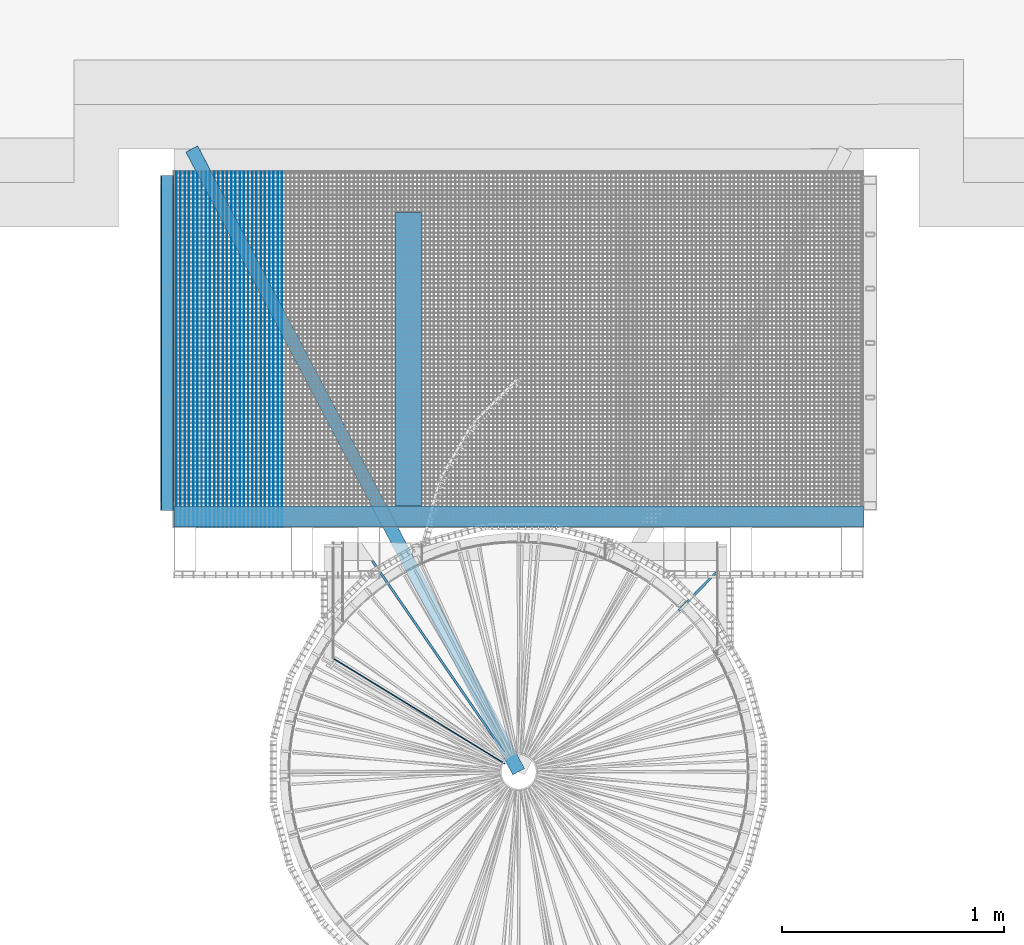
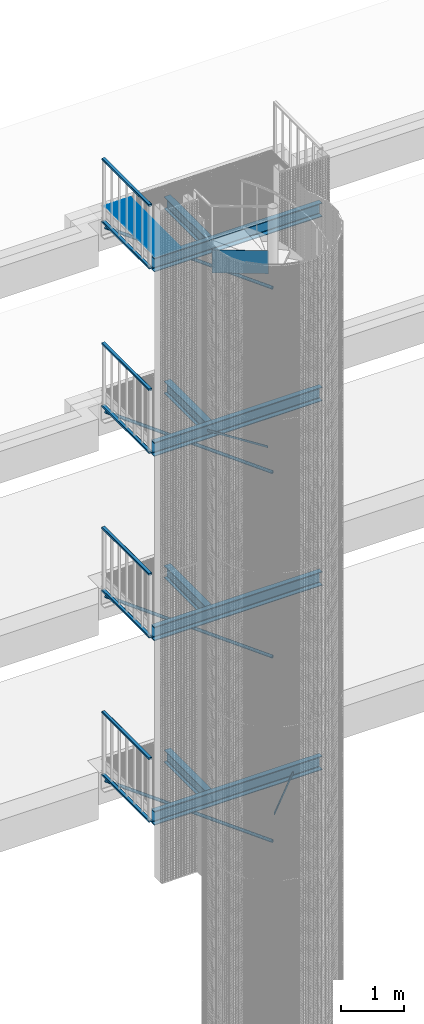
# One storey, part 77 of 1148: 49 beams, 24 elements without a shape of their own.
"""IFC2X3 building model written with IfcOpenShell, lengths in millimetres."""

from ifc_helpers import new_model, si_unit, frame, origin_with_axes, origin_2d_with_axis, place, context, subcontext, project, spatial, rectangle, hollow_rectangle, hollow_circle, i_section, u_section, extrude, material, type_object, element, aggregate, save


model = new_model("IFC2X3")

# Units and contexts
model_context = context("Model", 3, precision=1e-05, world=origin_with_axes())
body_context = subcontext(model_context, "Body", "Model", "MODEL_VIEW")
ifc_project = project(units=[si_unit("LENGTHUNIT", "METRE", prefix="MILLI"), si_unit("AREAUNIT", "SQUARE_METRE"), si_unit("VOLUMEUNIT", "CUBIC_METRE"), si_unit("MASSUNIT", "GRAM", prefix="KILO"), si_unit("TIMEUNIT", "SECOND"), si_unit("PLANEANGLEUNIT", "RADIAN"), si_unit("SOLIDANGLEUNIT", "STERADIAN"), si_unit("THERMODYNAMICTEMPERATUREUNIT", "DEGREE_CELSIUS"), si_unit("LUMINOUSINTENSITYUNIT", "LUMEN")], contexts=[model_context])

# Site, building, storey
site_placement = place(None, origin_with_axes())
site = spatial("IfcSite", under=ifc_project, at=site_placement, Name="Undefined", CompositionType="ELEMENT")
building_placement = place(site_placement, origin_with_axes())
building = spatial("IfcBuilding", under=site, at=building_placement, Name="Undefined", CompositionType="ELEMENT")
storey_placement = place(building_placement, origin_with_axes())
storey = spatial("IfcBuildingStorey", under=building, at=storey_placement, Name="Undefined", CompositionType="ELEMENT", Elevation=0.0)

# Assembly, beams
assembly_1_placement = place(storey_placement, origin_with_axes())
assembly_1 = element("IfcElementAssembly", 1, at=assembly_1_placement, inside=storey, Name="BORDURE", AssemblyPlace="NOTDEFINED", PredefinedType="NOTDEFINED")
ifc_material_1 = material(Name="STEEL/S235JR")
beam_type_1 = type_object("IfcBeamType", Name="PL2*10", PredefinedType="NOTDEFINED")
beam_1_placement = place(assembly_1_placement, frame((-1538.92457524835, 1101.99474406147, 17285.0), z_axis=(0.0, 0.0, 1.0), x_axis=(-4.50599999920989e-06, 0.999999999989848, 0.0)))
beam_1 = element("IfcBeam", 2, at=beam_1_placement, type_object=beam_type_1, material=ifc_material_1, Name="ENTRETOISE", context=body_context, shape_type="SweptSolid", body=[
    extrude(rectangle(XDim=2.0, YDim=10.0, at=origin_2d_with_axis()), frame((1596.0000000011, -1.35186458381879e-18, -7.27595761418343e-12), z_axis=(-1.0, 0.0, 0.0), x_axis=(0.0, -1.0, 0.0)), (0.0, 0.0, 1.0), 1596.0),
])
beam_2_placement = place(assembly_1_placement, frame((-1519.92457524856, 1101.99483757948, 17285.0), z_axis=(0.0, 0.0, 1.0), x_axis=(-4.50599999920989e-06, 0.999999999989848, 0.0)))
beam_2 = element("IfcBeam", 3, at=beam_2_placement, type_object=beam_type_1, material=ifc_material_1, Name="ENTRETOISE", context=body_context, shape_type="SweptSolid", body=[
    extrude(rectangle(XDim=2.0, YDim=10.0, at=origin_2d_with_axis()), frame((1596.0000000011, -1.35186458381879e-18, -7.27595761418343e-12), z_axis=(-1.0, 0.0, 0.0), x_axis=(0.0, -1.0, 0.0)), (0.0, 0.0, 1.0), 1596.0),
])
beam_3_placement = place(assembly_1_placement, frame((-1500.92457524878, 1101.99493109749, 17285.0), z_axis=(0.0, 0.0, 1.0), x_axis=(-4.50599999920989e-06, 0.999999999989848, 0.0)))
beam_3 = element("IfcBeam", 4, at=beam_3_placement, type_object=beam_type_1, material=ifc_material_1, Name="ENTRETOISE", context=body_context, shape_type="SweptSolid", body=[
    extrude(rectangle(XDim=2.0, YDim=10.0, at=origin_2d_with_axis()), frame((1596.0000000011, -1.35186458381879e-18, -7.27595761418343e-12), z_axis=(-1.0, 0.0, 0.0), x_axis=(0.0, -1.0, 0.0)), (0.0, 0.0, 1.0), 1596.0),
])
beam_4_placement = place(assembly_1_placement, frame((-1481.92457524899, 1101.9950246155, 17285.0), z_axis=(0.0, 0.0, 1.0), x_axis=(-4.50599999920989e-06, 0.999999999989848, 0.0)))
beam_4 = element("IfcBeam", 5, at=beam_4_placement, type_object=beam_type_1, material=ifc_material_1, Name="ENTRETOISE", context=body_context, shape_type="SweptSolid", body=[
    extrude(rectangle(XDim=2.0, YDim=10.0, at=origin_2d_with_axis()), frame((1596.0000000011, -1.35186458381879e-18, -7.27595761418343e-12), z_axis=(-1.0, 0.0, 0.0), x_axis=(0.0, -1.0, 0.0)), (0.0, 0.0, 1.0), 1596.0),
])
beam_5_placement = place(assembly_1_placement, frame((-1462.92457524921, 1101.99511813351, 17285.0), z_axis=(0.0, 0.0, 1.0), x_axis=(-4.50599999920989e-06, 0.999999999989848, 0.0)))
beam_5 = element("IfcBeam", 6, at=beam_5_placement, type_object=beam_type_1, material=ifc_material_1, Name="ENTRETOISE", context=body_context, shape_type="SweptSolid", body=[
    extrude(rectangle(XDim=2.0, YDim=10.0, at=origin_2d_with_axis()), frame((1596.0000000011, -1.35186458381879e-18, -7.27595761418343e-12), z_axis=(-1.0, 0.0, 0.0), x_axis=(0.0, -1.0, 0.0)), (0.0, 0.0, 1.0), 1596.0),
])
beam_6_placement = place(assembly_1_placement, frame((-1443.92457524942, 1101.99521165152, 17285.0), z_axis=(0.0, 0.0, 1.0), x_axis=(-4.50599999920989e-06, 0.999999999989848, 0.0)))
beam_6 = element("IfcBeam", 7, at=beam_6_placement, type_object=beam_type_1, material=ifc_material_1, Name="ENTRETOISE", context=body_context, shape_type="SweptSolid", body=[
    extrude(rectangle(XDim=2.0, YDim=10.0, at=origin_2d_with_axis()), frame((1596.0000000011, -1.35186458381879e-18, -7.27595761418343e-12), z_axis=(-1.0, 0.0, 0.0), x_axis=(0.0, -1.0, 0.0)), (0.0, 0.0, 1.0), 1596.0),
])
beam_7_placement = place(assembly_1_placement, frame((-1424.92457524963, 1101.99530516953, 17285.0), z_axis=(0.0, 0.0, 1.0), x_axis=(-4.50599999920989e-06, 0.999999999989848, 0.0)))
beam_7 = element("IfcBeam", 8, at=beam_7_placement, type_object=beam_type_1, material=ifc_material_1, Name="ENTRETOISE", context=body_context, shape_type="SweptSolid", body=[
    extrude(rectangle(XDim=2.0, YDim=10.0, at=origin_2d_with_axis()), frame((1596.0000000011, -1.35186458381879e-18, -7.27595761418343e-12), z_axis=(-1.0, 0.0, 0.0), x_axis=(0.0, -1.0, 0.0)), (0.0, 0.0, 1.0), 1596.0),
])
beam_8_placement = place(assembly_1_placement, frame((-1405.92457524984, 1101.99539868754, 17285.0), z_axis=(0.0, 0.0, 1.0), x_axis=(-4.50599999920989e-06, 0.999999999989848, 0.0)))
beam_8 = element("IfcBeam", 9, at=beam_8_placement, type_object=beam_type_1, material=ifc_material_1, Name="ENTRETOISE", context=body_context, shape_type="SweptSolid", body=[
    extrude(rectangle(XDim=2.0, YDim=10.0, at=origin_2d_with_axis()), frame((1596.0000000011, -1.35186458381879e-18, -7.27595761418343e-12), z_axis=(-1.0, 0.0, 0.0), x_axis=(0.0, -1.0, 0.0)), (0.0, 0.0, 1.0), 1596.0),
])
beam_9_placement = place(assembly_1_placement, frame((-1386.92457525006, 1101.99549220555, 17285.0), z_axis=(0.0, 0.0, 1.0), x_axis=(-4.50599999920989e-06, 0.999999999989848, 0.0)))
beam_9 = element("IfcBeam", 10, at=beam_9_placement, type_object=beam_type_1, material=ifc_material_1, Name="ENTRETOISE", context=body_context, shape_type="SweptSolid", body=[
    extrude(rectangle(XDim=2.0, YDim=10.0, at=origin_2d_with_axis()), frame((1596.0000000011, -1.35186458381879e-18, -7.27595761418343e-12), z_axis=(-1.0, 0.0, 0.0), x_axis=(0.0, -1.0, 0.0)), (0.0, 0.0, 1.0), 1596.0),
])
beam_10_placement = place(assembly_1_placement, frame((-1367.92457525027, 1101.99558572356, 17285.0), z_axis=(0.0, 0.0, 1.0), x_axis=(-4.50599999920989e-06, 0.999999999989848, 0.0)))
beam_10 = element("IfcBeam", 11, at=beam_10_placement, type_object=beam_type_1, material=ifc_material_1, Name="ENTRETOISE", context=body_context, shape_type="SweptSolid", body=[
    extrude(rectangle(XDim=2.0, YDim=10.0, at=origin_2d_with_axis()), frame((1596.0000000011, -1.35186458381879e-18, -7.27595761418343e-12), z_axis=(-1.0, 0.0, 0.0), x_axis=(0.0, -1.0, 0.0)), (0.0, 0.0, 1.0), 1596.0),
])
beam_11_placement = place(assembly_1_placement, frame((-1348.92457525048, 1101.99567924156, 17285.0), z_axis=(0.0, 0.0, 1.0), x_axis=(-4.50599999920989e-06, 0.999999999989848, 0.0)))
beam_11 = element("IfcBeam", 12, at=beam_11_placement, type_object=beam_type_1, material=ifc_material_1, Name="ENTRETOISE", context=body_context, shape_type="SweptSolid", body=[
    extrude(rectangle(XDim=2.0, YDim=10.0, at=origin_2d_with_axis()), frame((1596.0000000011, -1.35186458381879e-18, -7.27595761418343e-12), z_axis=(-1.0, 0.0, 0.0), x_axis=(0.0, -1.0, 0.0)), (0.0, 0.0, 1.0), 1596.0),
])
beam_12_placement = place(assembly_1_placement, frame((-1329.9245752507, 1101.99577275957, 17285.0), z_axis=(0.0, 0.0, 1.0), x_axis=(-4.50599999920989e-06, 0.999999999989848, 0.0)))
beam_12 = element("IfcBeam", 13, at=beam_12_placement, type_object=beam_type_1, material=ifc_material_1, Name="ENTRETOISE", context=body_context, shape_type="SweptSolid", body=[
    extrude(rectangle(XDim=2.0, YDim=10.0, at=origin_2d_with_axis()), frame((1596.0000000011, -1.35186458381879e-18, -7.27595761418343e-12), z_axis=(-1.0, 0.0, 0.0), x_axis=(0.0, -1.0, 0.0)), (0.0, 0.0, 1.0), 1596.0),
])
beam_13_placement = place(assembly_1_placement, frame((-1310.92457525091, 1101.99586627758, 17285.0), z_axis=(0.0, 0.0, 1.0), x_axis=(-4.50599999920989e-06, 0.999999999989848, 0.0)))
beam_13 = element("IfcBeam", 14, at=beam_13_placement, type_object=beam_type_1, material=ifc_material_1, Name="ENTRETOISE", context=body_context, shape_type="SweptSolid", body=[
    extrude(rectangle(XDim=2.0, YDim=10.0, at=origin_2d_with_axis()), frame((1596.0000000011, -1.35186458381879e-18, -7.27595761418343e-12), z_axis=(-1.0, 0.0, 0.0), x_axis=(0.0, -1.0, 0.0)), (0.0, 0.0, 1.0), 1596.0),
])
beam_14_placement = place(assembly_1_placement, frame((-1291.92457525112, 1101.99595979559, 17285.0), z_axis=(0.0, 0.0, 1.0), x_axis=(-4.50599999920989e-06, 0.999999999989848, 0.0)))
beam_14 = element("IfcBeam", 15, at=beam_14_placement, type_object=beam_type_1, material=ifc_material_1, Name="ENTRETOISE", context=body_context, shape_type="SweptSolid", body=[
    extrude(rectangle(XDim=2.0, YDim=10.0, at=origin_2d_with_axis()), frame((1596.0000000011, -1.35186458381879e-18, -7.27595761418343e-12), z_axis=(-1.0, 0.0, 0.0), x_axis=(0.0, -1.0, 0.0)), (0.0, 0.0, 1.0), 1596.0),
])
beam_15_placement = place(assembly_1_placement, frame((-1272.92457525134, 1101.9960533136, 17285.0), z_axis=(0.0, 0.0, 1.0), x_axis=(-4.50599999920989e-06, 0.999999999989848, 0.0)))
beam_15 = element("IfcBeam", 16, at=beam_15_placement, type_object=beam_type_1, material=ifc_material_1, Name="ENTRETOISE", context=body_context, shape_type="SweptSolid", body=[
    extrude(rectangle(XDim=2.0, YDim=10.0, at=origin_2d_with_axis()), frame((1596.0000000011, -1.35186458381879e-18, -7.27595761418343e-12), z_axis=(-1.0, 0.0, 0.0), x_axis=(0.0, -1.0, 0.0)), (0.0, 0.0, 1.0), 1596.0),
])
beam_16_placement = place(assembly_1_placement, frame((-1253.92457525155, 1101.99614683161, 17285.0), z_axis=(0.0, 0.0, 1.0), x_axis=(-4.50599999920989e-06, 0.999999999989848, 0.0)))
beam_16 = element("IfcBeam", 17, at=beam_16_placement, type_object=beam_type_1, material=ifc_material_1, Name="ENTRETOISE", context=body_context, shape_type="SweptSolid", body=[
    extrude(rectangle(XDim=2.0, YDim=10.0, at=origin_2d_with_axis()), frame((1596.0000000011, -1.35186458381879e-18, -7.27595761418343e-12), z_axis=(-1.0, 0.0, 0.0), x_axis=(0.0, -1.0, 0.0)), (0.0, 0.0, 1.0), 1596.0),
])
beam_17_placement = place(assembly_1_placement, frame((-1234.92457525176, 1101.99624034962, 17285.0), z_axis=(0.0, 0.0, 1.0), x_axis=(-4.50599999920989e-06, 0.999999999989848, 0.0)))
beam_17 = element("IfcBeam", 18, at=beam_17_placement, type_object=beam_type_1, material=ifc_material_1, Name="ENTRETOISE", context=body_context, shape_type="SweptSolid", body=[
    extrude(rectangle(XDim=2.0, YDim=10.0, at=origin_2d_with_axis()), frame((1596.0000000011, -1.35186458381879e-18, -7.27595761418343e-12), z_axis=(-1.0, 0.0, 0.0), x_axis=(0.0, -1.0, 0.0)), (0.0, 0.0, 1.0), 1596.0),
])
beam_18_placement = place(assembly_1_placement, frame((-1215.92457525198, 1101.99633386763, 17285.0), z_axis=(0.0, 0.0, 1.0), x_axis=(-4.50599999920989e-06, 0.999999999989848, 0.0)))
beam_18 = element("IfcBeam", 19, at=beam_18_placement, type_object=beam_type_1, material=ifc_material_1, Name="ENTRETOISE", context=body_context, shape_type="SweptSolid", body=[
    extrude(rectangle(XDim=2.0, YDim=10.0, at=origin_2d_with_axis()), frame((1596.0000000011, -1.35186458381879e-18, -7.27595761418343e-12), z_axis=(-1.0, 0.0, 0.0), x_axis=(0.0, -1.0, 0.0)), (0.0, 0.0, 1.0), 1596.0),
])
beam_19_placement = place(assembly_1_placement, frame((-1196.92457525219, 1101.99642738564, 17285.0), z_axis=(0.0, 0.0, 1.0), x_axis=(-4.50599999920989e-06, 0.999999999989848, 0.0)))
beam_19 = element("IfcBeam", 20, at=beam_19_placement, type_object=beam_type_1, material=ifc_material_1, Name="ENTRETOISE", context=body_context, shape_type="SweptSolid", body=[
    extrude(rectangle(XDim=2.0, YDim=10.0, at=origin_2d_with_axis()), frame((1596.0000000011, -1.35186458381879e-18, -7.27595761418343e-12), z_axis=(-1.0, 0.0, 0.0), x_axis=(0.0, -1.0, 0.0)), (0.0, 0.0, 1.0), 1596.0),
])
beam_20_placement = place(assembly_1_placement, frame((-1177.9245752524, 1101.99652090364, 17285.0), z_axis=(0.0, 0.0, 1.0), x_axis=(-4.50599999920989e-06, 0.999999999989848, 0.0)))
beam_20 = element("IfcBeam", 21, at=beam_20_placement, type_object=beam_type_1, material=ifc_material_1, Name="ENTRETOISE", context=body_context, shape_type="SweptSolid", body=[
    extrude(rectangle(XDim=2.0, YDim=10.0, at=origin_2d_with_axis()), frame((1596.0000000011, -1.35186458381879e-18, -7.27595761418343e-12), z_axis=(-1.0, 0.0, 0.0), x_axis=(0.0, -1.0, 0.0)), (0.0, 0.0, 1.0), 1596.0),
])
beam_21_placement = place(assembly_1_placement, frame((-1158.92457525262, 1101.99661442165, 17285.0), z_axis=(0.0, 0.0, 1.0), x_axis=(-4.50599999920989e-06, 0.999999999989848, 0.0)))
beam_21 = element("IfcBeam", 22, at=beam_21_placement, type_object=beam_type_1, material=ifc_material_1, Name="ENTRETOISE", context=body_context, shape_type="SweptSolid", body=[
    extrude(rectangle(XDim=2.0, YDim=10.0, at=origin_2d_with_axis()), frame((1596.0000000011, -1.35186458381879e-18, -7.27595761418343e-12), z_axis=(-1.0, 0.0, 0.0), x_axis=(0.0, -1.0, 0.0)), (0.0, 0.0, 1.0), 1596.0),
])
beam_22_placement = place(assembly_1_placement, frame((-1139.92457525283, 1101.99670793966, 17285.0), z_axis=(0.0, 0.0, 1.0), x_axis=(-4.50599999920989e-06, 0.999999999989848, 0.0)))
beam_22 = element("IfcBeam", 23, at=beam_22_placement, type_object=beam_type_1, material=ifc_material_1, Name="ENTRETOISE", context=body_context, shape_type="SweptSolid", body=[
    extrude(rectangle(XDim=2.0, YDim=10.0, at=origin_2d_with_axis()), frame((1596.0000000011, -1.35186458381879e-18, -7.27595761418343e-12), z_axis=(-1.0, 0.0, 0.0), x_axis=(0.0, -1.0, 0.0)), (0.0, 0.0, 1.0), 1596.0),
])
beam_23_placement = place(assembly_1_placement, frame((-1120.92457525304, 1101.99680145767, 17285.0), z_axis=(0.0, 0.0, 1.0), x_axis=(-4.50599999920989e-06, 0.999999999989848, 0.0)))
beam_23 = element("IfcBeam", 24, at=beam_23_placement, type_object=beam_type_1, material=ifc_material_1, Name="ENTRETOISE", context=body_context, shape_type="SweptSolid", body=[
    extrude(rectangle(XDim=2.0, YDim=10.0, at=origin_2d_with_axis()), frame((1596.0000000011, -1.35186458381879e-18, -7.27595761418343e-12), z_axis=(-1.0, 0.0, 0.0), x_axis=(0.0, -1.0, 0.0)), (0.0, 0.0, 1.0), 1596.0),
])
beam_24_placement = place(assembly_1_placement, frame((-1101.92457525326, 1101.99689497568, 17285.0), z_axis=(0.0, 0.0, 1.0), x_axis=(-4.50599999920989e-06, 0.999999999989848, 0.0)))
beam_24 = element("IfcBeam", 25, at=beam_24_placement, type_object=beam_type_1, material=ifc_material_1, Name="ENTRETOISE", context=body_context, shape_type="SweptSolid", body=[
    extrude(rectangle(XDim=2.0, YDim=10.0, at=origin_2d_with_axis()), frame((1596.0000000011, -1.35186458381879e-18, -7.27595761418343e-12), z_axis=(-1.0, 0.0, 0.0), x_axis=(0.0, -1.0, 0.0)), (0.0, 0.0, 1.0), 1596.0),
])
beam_25_placement = place(assembly_1_placement, frame((-1082.92457525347, 1101.99698849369, 17285.0), z_axis=(0.0, 0.0, 1.0), x_axis=(-4.50599999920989e-06, 0.999999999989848, 0.0)))
beam_25 = element("IfcBeam", 26, at=beam_25_placement, type_object=beam_type_1, material=ifc_material_1, Name="ENTRETOISE", context=body_context, shape_type="SweptSolid", body=[
    extrude(rectangle(XDim=2.0, YDim=10.0, at=origin_2d_with_axis()), frame((1596.0000000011, -1.35186458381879e-18, -7.27595761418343e-12), z_axis=(-1.0, 0.0, 0.0), x_axis=(0.0, -1.0, 0.0)), (0.0, 0.0, 1.0), 1596.0),
])
beam_26_placement = place(assembly_1_placement, frame((-1063.92457525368, 1101.9970820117, 17285.0), z_axis=(0.0, 0.0, 1.0), x_axis=(-4.50599999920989e-06, 0.999999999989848, 0.0)))
beam_26 = element("IfcBeam", 27, at=beam_26_placement, type_object=beam_type_1, material=ifc_material_1, Name="ENTRETOISE", context=body_context, shape_type="SweptSolid", body=[
    extrude(rectangle(XDim=2.0, YDim=10.0, at=origin_2d_with_axis()), frame((1596.0000000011, -1.35186458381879e-18, -7.27595761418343e-12), z_axis=(-1.0, 0.0, 0.0), x_axis=(0.0, -1.0, 0.0)), (0.0, 0.0, 1.0), 1596.0),
])
aggregate(assembly_1, [beam_1, beam_2, beam_3, beam_4, beam_5, beam_6, beam_7, beam_8, beam_9, beam_10, beam_11, beam_12, beam_13, beam_14, beam_15, beam_16, beam_17, beam_18, beam_19, beam_20, beam_21, beam_22, beam_23, beam_24, beam_25, beam_26])

# Assembly, beam
assembly_2_placement = place(storey_placement, origin_with_axes())
assembly_2 = element("IfcElementAssembly", 28, at=assembly_2_placement, inside=storey, Name="RAILING", AssemblyPlace="NOTDEFINED", PredefinedType="NOTDEFINED")
beam_type_2 = type_object("IfcBeamType", Name="TUBE-R-60*40*3", PredefinedType="NOTDEFINED")
beam_27_placement = place(assembly_2_placement, frame((-1580.07043456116, 1175.01007484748, 17020.0), z_axis=(0.999999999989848, -4.50599999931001e-06, 0.0), x_axis=(4.50599999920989e-06, 0.999999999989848, 0.0)))
beam_27 = element("IfcBeam", 29, at=beam_27_placement, type_object=beam_type_2, material=ifc_material_1, Name="RAILING", context=body_context, shape_type="SweptSolid", body=[
    extrude(hollow_rectangle(XDim=40.0, YDim=60.0, WallThickness=3.0, InnerFilletRadius=3.0, OuterFilletRadius=6.0, at=origin_2d_with_axis()), frame((1504.99832798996, 3.63797880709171e-12, -1.27478316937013e-18), z_axis=(-1.0, 0.0, 0.0), x_axis=(0.0, -1.0, 0.0)), (0.0, 0.0, 1.0), 1505.0),
])
aggregate(assembly_2, [beam_27])

assembly_3_placement = place(storey_placement, origin_with_axes())
assembly_3 = element("IfcElementAssembly", 30, at=assembly_3_placement, inside=storey, Name="RAILING", AssemblyPlace="NOTDEFINED", PredefinedType="NOTDEFINED")
beam_28_placement = place(assembly_3_placement, frame((-1580.07043456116, 1175.01007484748, 18240.0), z_axis=(0.999999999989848, -4.50599999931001e-06, 0.0), x_axis=(4.50599999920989e-06, 0.999999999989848, 0.0)))
beam_28 = element("IfcBeam", 31, at=beam_28_placement, type_object=beam_type_2, material=ifc_material_1, Name="RAILING", context=body_context, shape_type="SweptSolid", body=[
    extrude(hollow_rectangle(XDim=40.0, YDim=60.0, WallThickness=3.0, InnerFilletRadius=3.0, OuterFilletRadius=6.0, at=origin_2d_with_axis()), frame((1504.99832798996, 3.63797880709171e-12, -1.27478316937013e-18), z_axis=(-1.0, 0.0, 0.0), x_axis=(0.0, -1.0, 0.0)), (0.0, 0.0, 1.0), 1505.0),
])
aggregate(assembly_3, [beam_28])

assembly_4_placement = place(storey_placement, origin_with_axes())
assembly_4 = element("IfcElementAssembly", 32, at=assembly_4_placement, inside=storey, Name="RAILING", AssemblyPlace="NOTDEFINED", PredefinedType="NOTDEFINED")
beam_29_placement = place(assembly_4_placement, frame((-1580.07043456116, 1175.01007484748, 13420.0), z_axis=(0.999999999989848, -4.50599999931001e-06, 0.0), x_axis=(4.50599999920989e-06, 0.999999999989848, 0.0)))
beam_29 = element("IfcBeam", 33, at=beam_29_placement, type_object=beam_type_2, material=ifc_material_1, Name="RAILING", context=body_context, shape_type="SweptSolid", body=[
    extrude(hollow_rectangle(XDim=40.0, YDim=60.0, WallThickness=3.0, InnerFilletRadius=3.0, OuterFilletRadius=6.0, at=origin_2d_with_axis()), frame((1504.99832798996, 3.63797880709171e-12, -1.27478316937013e-18), z_axis=(-1.0, 0.0, 0.0), x_axis=(0.0, -1.0, 0.0)), (0.0, 0.0, 1.0), 1505.0),
])
aggregate(assembly_4, [beam_29])

assembly_5_placement = place(storey_placement, origin_with_axes())
assembly_5 = element("IfcElementAssembly", 34, at=assembly_5_placement, inside=storey, Name="RAILING", AssemblyPlace="NOTDEFINED", PredefinedType="NOTDEFINED")
beam_30_placement = place(assembly_5_placement, frame((-1580.07043456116, 1175.01007484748, 14640.0), z_axis=(0.999999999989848, -4.50599999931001e-06, 0.0), x_axis=(4.50599999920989e-06, 0.999999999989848, 0.0)))
beam_30 = element("IfcBeam", 35, at=beam_30_placement, type_object=beam_type_2, material=ifc_material_1, Name="RAILING", context=body_context, shape_type="SweptSolid", body=[
    extrude(hollow_rectangle(XDim=40.0, YDim=60.0, WallThickness=3.0, InnerFilletRadius=3.0, OuterFilletRadius=6.0, at=origin_2d_with_axis()), frame((1504.99832798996, 3.63797880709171e-12, -1.27478316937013e-18), z_axis=(-1.0, 0.0, 0.0), x_axis=(0.0, -1.0, 0.0)), (0.0, 0.0, 1.0), 1505.0),
])
aggregate(assembly_5, [beam_30])

assembly_6_placement = place(storey_placement, origin_with_axes())
assembly_6 = element("IfcElementAssembly", 36, at=assembly_6_placement, inside=storey, Name="RAILING", AssemblyPlace="NOTDEFINED", PredefinedType="NOTDEFINED")
beam_31_placement = place(assembly_6_placement, frame((-1580.07043456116, 1175.01007484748, 9820.0), z_axis=(0.999999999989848, -4.50599999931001e-06, 0.0), x_axis=(4.50599999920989e-06, 0.999999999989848, 0.0)))
beam_31 = element("IfcBeam", 37, at=beam_31_placement, type_object=beam_type_2, material=ifc_material_1, Name="RAILING", context=body_context, shape_type="SweptSolid", body=[
    extrude(hollow_rectangle(XDim=40.0, YDim=60.0, WallThickness=3.0, InnerFilletRadius=3.0, OuterFilletRadius=6.0, at=origin_2d_with_axis()), frame((1504.99832798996, 3.63797880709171e-12, -1.27478316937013e-18), z_axis=(-1.0, 0.0, 0.0), x_axis=(0.0, -1.0, 0.0)), (0.0, 0.0, 1.0), 1505.0),
])
aggregate(assembly_6, [beam_31])

assembly_7_placement = place(storey_placement, origin_with_axes())
assembly_7 = element("IfcElementAssembly", 38, at=assembly_7_placement, inside=storey, Name="RAILING", AssemblyPlace="NOTDEFINED", PredefinedType="NOTDEFINED")
beam_32_placement = place(assembly_7_placement, frame((-1580.07043456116, 1175.01007484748, 11040.0), z_axis=(0.999999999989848, -4.50599999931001e-06, 0.0), x_axis=(4.50599999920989e-06, 0.999999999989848, 0.0)))
beam_32 = element("IfcBeam", 39, at=beam_32_placement, type_object=beam_type_2, material=ifc_material_1, Name="RAILING", context=body_context, shape_type="SweptSolid", body=[
    extrude(hollow_rectangle(XDim=40.0, YDim=60.0, WallThickness=3.0, InnerFilletRadius=3.0, OuterFilletRadius=6.0, at=origin_2d_with_axis()), frame((1504.99832798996, 3.63797880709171e-12, -1.27478316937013e-18), z_axis=(-1.0, 0.0, 0.0), x_axis=(0.0, -1.0, 0.0)), (0.0, 0.0, 1.0), 1505.0),
])
aggregate(assembly_7, [beam_32])

assembly_8_placement = place(storey_placement, origin_with_axes())
assembly_8 = element("IfcElementAssembly", 40, at=assembly_8_placement, inside=storey, Name="RAILING", AssemblyPlace="NOTDEFINED", PredefinedType="NOTDEFINED")
beam_33_placement = place(assembly_8_placement, frame((-1580.07043456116, 1175.01007484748, 6220.0), z_axis=(0.999999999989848, -4.50599999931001e-06, 0.0), x_axis=(4.50599999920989e-06, 0.999999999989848, 0.0)))
beam_33 = element("IfcBeam", 41, at=beam_33_placement, type_object=beam_type_2, material=ifc_material_1, Name="RAILING", context=body_context, shape_type="SweptSolid", body=[
    extrude(hollow_rectangle(XDim=40.0, YDim=60.0, WallThickness=3.0, InnerFilletRadius=3.0, OuterFilletRadius=6.0, at=origin_2d_with_axis()), frame((1504.99832798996, 3.63797880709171e-12, -1.27478316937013e-18), z_axis=(-1.0, 0.0, 0.0), x_axis=(0.0, -1.0, 0.0)), (0.0, 0.0, 1.0), 1505.0),
])
aggregate(assembly_8, [beam_33])

assembly_9_placement = place(storey_placement, origin_with_axes())
assembly_9 = element("IfcElementAssembly", 42, at=assembly_9_placement, inside=storey, Name="RAILING", AssemblyPlace="NOTDEFINED", PredefinedType="NOTDEFINED")
beam_34_placement = place(assembly_9_placement, frame((-1580.07043456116, 1175.01007484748, 7440.0), z_axis=(0.999999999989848, -4.50599999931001e-06, 0.0), x_axis=(4.50599999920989e-06, 0.999999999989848, 0.0)))
beam_34 = element("IfcBeam", 43, at=beam_34_placement, type_object=beam_type_2, material=ifc_material_1, Name="RAILING", context=body_context, shape_type="SweptSolid", body=[
    extrude(hollow_rectangle(XDim=40.0, YDim=60.0, WallThickness=3.0, InnerFilletRadius=3.0, OuterFilletRadius=6.0, at=origin_2d_with_axis()), frame((1504.99832798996, 3.63797880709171e-12, -1.27478316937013e-18), z_axis=(-1.0, 0.0, 0.0), x_axis=(0.0, -1.0, 0.0)), (0.0, 0.0, 1.0), 1505.0),
])
aggregate(assembly_9, [beam_34])

assembly_10_placement = place(storey_placement, origin_with_axes())
assembly_10 = element("IfcElementAssembly", 44, at=assembly_10_placement, inside=storey, Name="POTEAU", AssemblyPlace="NOTDEFINED", PredefinedType="NOTDEFINED")
beam_type_3 = type_object("IfcBeamType", Name="PL10*40", PredefinedType="NOTDEFINED")
beam_35_placement = place(assembly_10_placement, frame((-51.6645409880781, 66.3066495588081, 13666.0), z_axis=(0.0, 0.0, 1.0), x_axis=(-0.566618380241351, 0.823980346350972, 0.0)))
beam_35 = element("IfcBeam", 45, at=beam_35_placement, type_object=beam_type_3, material=ifc_material_1, Name="RAIDISSEUR", context=body_context, shape_type="SweptSolid", body=[
    extrude(rectangle(XDim=10.0, YDim=40.0, at=origin_2d_with_axis()), frame((1068.32873394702, 0.0, 0.0), z_axis=(-1.0, 0.0, 0.0), x_axis=(0.0, -1.0, 0.0)), (0.0, 0.0, 1.0), 1068.33),
])
aggregate(assembly_10, [beam_35])

assembly_11_placement = place(storey_placement, origin_with_axes())
assembly_11 = element("IfcElementAssembly", 46, at=assembly_11_placement, inside=storey, Name="POTEAU", AssemblyPlace="NOTDEFINED", PredefinedType="NOTDEFINED")
beam_36_placement = place(assembly_11_placement, frame((62.3953803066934, 56.3295884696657, 6465.84000000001), z_axis=(0.0, 0.0, 1.0), x_axis=(0.701441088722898, 0.712727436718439, 0.0)))
beam_36 = element("IfcBeam", 47, at=beam_36_placement, type_object=beam_type_3, material=ifc_material_1, Name="RAIDISSEUR", context=body_context, shape_type="SweptSolid", body=[
    extrude(rectangle(XDim=10.0, YDim=40.0, at=origin_2d_with_axis()), frame((1177.56285850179, 0.0, 0.0), z_axis=(-1.0, 0.0, 0.0), x_axis=(0.0, -1.0, 0.0)), (0.0, 0.0, 1.0), 1177.56),
])
aggregate(assembly_11, [beam_36])

assembly_12_placement = place(storey_placement, origin_with_axes())
assembly_12 = element("IfcElementAssembly", 48, at=assembly_12_placement, inside=storey, AssemblyPlace="NOTDEFINED", PredefinedType="NOTDEFINED")
beam_type_4 = type_object("IfcBeamType", Name="PLT4*450", PredefinedType="NOTDEFINED")
beam_37_placement = place(assembly_12_placement, frame((-61.5022689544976, 35.4079653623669, 17289.84), z_axis=(0.0, 0.0, 1.0), x_axis=(-0.852229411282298, 0.523168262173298, 0.0)))
beam_37 = element("IfcBeam", 49, at=beam_37_placement, type_object=beam_type_4, material=ifc_material_1, Name="GARDE_PIED", context=body_context, shape_type="SweptSolid", body=[
    extrude(rectangle(XDim=4.0, YDim=450.0, at=origin_2d_with_axis()), frame((903.993020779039, 0.0, 0.0), z_axis=(-1.0, 0.0, 0.0), x_axis=(0.0, -1.0, 0.0)), (0.0, 0.0, 1.0), 903.99),
])
aggregate(assembly_12, [beam_37])

assembly_13_placement = place(storey_placement, origin_with_axes())
assembly_13 = element("IfcElementAssembly", 50, at=assembly_13_placement, inside=storey, AssemblyPlace="NOTDEFINED", PredefinedType="NOTDEFINED")
ifc_material_2 = material(Name="STEEL/S275JR")
beam_type_5 = type_object("IfcBeamType", Name="TUBE-60.3*5", PredefinedType="NOTDEFINED")
beam_38_placement = place(assembly_13_placement, frame((-3.78986442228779e-09, -0.239999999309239, 16790.0), z_axis=(0.0, 0.0, 1.0), x_axis=(-0.464816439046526, 0.885407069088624, 0.0)))
beam_38 = element("IfcBeam", 51, at=beam_38_placement, type_object=beam_type_5, material=ifc_material_2, Name="BUTON", context=body_context, shape_type="SweptSolid", body=[
    extrude(hollow_circle(Radius=30.14999962, WallThickness=5.0, at=origin_2d_with_axis()), frame((3162.38211154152, 0.0, 0.0), z_axis=(-1.0, 0.0, 0.0), x_axis=(0.0, -1.0, 0.0)), (0.0, 0.0, 1.0), 3162.38),
])
aggregate(assembly_13, [beam_38])

assembly_14_placement = place(storey_placement, origin_with_axes())
assembly_14 = element("IfcElementAssembly", 52, at=assembly_14_placement, inside=storey, AssemblyPlace="NOTDEFINED", PredefinedType="NOTDEFINED")
beam_39_placement = place(assembly_14_placement, frame((-3.78986442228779e-09, -0.159999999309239, 13190.0), z_axis=(0.0, 0.0, 1.0), x_axis=(-0.464816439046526, 0.885407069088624, 0.0)))
beam_39 = element("IfcBeam", 53, at=beam_39_placement, type_object=beam_type_5, material=ifc_material_2, Name="BUTON", context=body_context, shape_type="SweptSolid", body=[
    extrude(hollow_circle(Radius=30.14999962, WallThickness=5.0, at=origin_2d_with_axis()), frame((3162.38211154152, 0.0, 0.0), z_axis=(-1.0, 0.0, 0.0), x_axis=(0.0, -1.0, 0.0)), (0.0, 0.0, 1.0), 3162.38),
])
aggregate(assembly_14, [beam_39])

assembly_15_placement = place(storey_placement, origin_with_axes())
assembly_15 = element("IfcElementAssembly", 54, at=assembly_15_placement, inside=storey, AssemblyPlace="NOTDEFINED", PredefinedType="NOTDEFINED")
beam_40_placement = place(assembly_15_placement, frame((-3.78986442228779e-09, -0.0799999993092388, 9590.0), z_axis=(0.0, 0.0, 1.0), x_axis=(-0.464816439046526, 0.885407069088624, 0.0)))
beam_40 = element("IfcBeam", 55, at=beam_40_placement, type_object=beam_type_5, material=ifc_material_2, Name="BUTON", context=body_context, shape_type="SweptSolid", body=[
    extrude(hollow_circle(Radius=30.14999962, WallThickness=5.0, at=origin_2d_with_axis()), frame((3162.38211154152, 0.0, 0.0), z_axis=(-1.0, 0.0, 0.0), x_axis=(0.0, -1.0, 0.0)), (0.0, 0.0, 1.0), 3162.38),
])
aggregate(assembly_15, [beam_40])

assembly_16_placement = place(storey_placement, origin_with_axes())
assembly_16 = element("IfcElementAssembly", 56, at=assembly_16_placement, inside=storey, AssemblyPlace="NOTDEFINED", PredefinedType="NOTDEFINED")
beam_41_placement = place(assembly_16_placement, frame((-3.78986442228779e-09, 6.90761225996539e-10, 5990.0), z_axis=(0.0, 0.0, 1.0), x_axis=(-0.464816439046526, 0.885407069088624, 0.0)))
beam_41 = element("IfcBeam", 57, at=beam_41_placement, type_object=beam_type_5, material=ifc_material_2, Name="BUTON", context=body_context, shape_type="SweptSolid", body=[
    extrude(hollow_circle(Radius=30.14999962, WallThickness=5.0, at=origin_2d_with_axis()), frame((3162.38211154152, 0.0, 0.0), z_axis=(-1.0, 0.0, 0.0), x_axis=(0.0, -1.0, 0.0)), (0.0, 0.0, 1.0), 3162.38),
])
aggregate(assembly_16, [beam_41])

assembly_17_placement = place(storey_placement, origin_with_axes())
assembly_17 = element("IfcElementAssembly", 58, at=assembly_17_placement, inside=storey, AssemblyPlace="NOTDEFINED", PredefinedType="NOTDEFINED")
beam_type_6 = type_object("IfcBeamType", Name="IPE240", PredefinedType="NOTDEFINED")
beam_42_placement = place(assembly_17_placement, frame((-496.589565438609, 1195.00994809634, 17120.0), z_axis=(0.0, 0.0, 1.0), x_axis=(-4.50599999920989e-06, 0.999999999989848, 0.0)))
beam_42 = element("IfcBeam", 59, at=beam_42_placement, type_object=beam_type_6, material=ifc_material_1, Name="EXISTANTS", context=body_context, shape_type="SweptSolid", body=[
    extrude(i_section(OverallWidth=120.0, OverallDepth=240.0, WebThickness=6.199999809, FlangeThickness=9.800000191, FilletRadius=15.0, at=origin_2d_with_axis()), frame((1319.99832798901, 0.0, -3.63797880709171e-12), z_axis=(-1.0, 0.0, 0.0), x_axis=(0.0, -1.0, 0.0)), (0.0, 0.0, 1.0), 1320.0),
])
aggregate(assembly_17, [beam_42])

assembly_18_placement = place(storey_placement, origin_with_axes())
assembly_18 = element("IfcElementAssembly", 60, at=assembly_18_placement, inside=storey, AssemblyPlace="NOTDEFINED", PredefinedType="NOTDEFINED")
beam_43_placement = place(assembly_18_placement, frame((-496.589565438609, 1195.00994809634, 13520.0), z_axis=(0.0, 0.0, 1.0), x_axis=(-4.50599999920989e-06, 0.999999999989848, 0.0)))
beam_43 = element("IfcBeam", 61, at=beam_43_placement, type_object=beam_type_6, material=ifc_material_1, Name="EXISTANTS", context=body_context, shape_type="SweptSolid", body=[
    extrude(i_section(OverallWidth=120.0, OverallDepth=240.0, WebThickness=6.199999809, FlangeThickness=9.800000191, FilletRadius=15.0, at=origin_2d_with_axis()), frame((1319.99832798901, 0.0, -3.63797880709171e-12), z_axis=(-1.0, 0.0, 0.0), x_axis=(0.0, -1.0, 0.0)), (0.0, 0.0, 1.0), 1320.0),
])
aggregate(assembly_18, [beam_43])

assembly_19_placement = place(storey_placement, origin_with_axes())
assembly_19 = element("IfcElementAssembly", 62, at=assembly_19_placement, inside=storey, AssemblyPlace="NOTDEFINED", PredefinedType="NOTDEFINED")
beam_44_placement = place(assembly_19_placement, frame((-496.589565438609, 1195.00994809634, 9920.0), z_axis=(0.0, 0.0, 1.0), x_axis=(-4.50599999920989e-06, 0.999999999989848, 0.0)))
beam_44 = element("IfcBeam", 63, at=beam_44_placement, type_object=beam_type_6, material=ifc_material_1, Name="EXISTANTS", context=body_context, shape_type="SweptSolid", body=[
    extrude(i_section(OverallWidth=120.0, OverallDepth=240.0, WebThickness=6.199999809, FlangeThickness=9.800000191, FilletRadius=15.0, at=origin_2d_with_axis()), frame((1319.99832798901, 0.0, -3.63797880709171e-12), z_axis=(-1.0, 0.0, 0.0), x_axis=(0.0, -1.0, 0.0)), (0.0, 0.0, 1.0), 1320.0),
])
aggregate(assembly_19, [beam_44])

assembly_20_placement = place(storey_placement, origin_with_axes())
assembly_20 = element("IfcElementAssembly", 64, at=assembly_20_placement, inside=storey, AssemblyPlace="NOTDEFINED", PredefinedType="NOTDEFINED")
beam_45_placement = place(assembly_20_placement, frame((-496.589565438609, 1195.00994809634, 6320.0), z_axis=(0.0, 0.0, 1.0), x_axis=(-4.50599999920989e-06, 0.999999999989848, 0.0)))
beam_45 = element("IfcBeam", 65, at=beam_45_placement, type_object=beam_type_6, material=ifc_material_1, Name="EXISTANTS", context=body_context, shape_type="SweptSolid", body=[
    extrude(i_section(OverallWidth=120.0, OverallDepth=240.0, WebThickness=6.199999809, FlangeThickness=9.800000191, FilletRadius=15.0, at=origin_2d_with_axis()), frame((1319.99832798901, 0.0, -3.63797880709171e-12), z_axis=(-1.0, 0.0, 0.0), x_axis=(0.0, -1.0, 0.0)), (0.0, 0.0, 1.0), 1320.0),
])
aggregate(assembly_20, [beam_45])

assembly_21_placement = place(storey_placement, origin_with_axes())
assembly_21 = element("IfcElementAssembly", 66, at=assembly_21_placement, inside=storey, AssemblyPlace="NOTDEFINED", PredefinedType="NOTDEFINED")
beam_type_7 = type_object("IfcBeamType", Name="UPE270", PredefinedType="NOTDEFINED")
beam_46_placement = place(assembly_21_placement, frame((-1549.92064396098, 1147.49468994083, 17105.0), z_axis=(0.0, 0.0, 1.0), x_axis=(0.999999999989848, 4.50600000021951e-06, 0.0)))
beam_46 = element("IfcBeam", 67, at=beam_46_placement, type_object=beam_type_7, material=ifc_material_1, Name="EXISTANTS", context=body_context, shape_type="SweptSolid", body=[
    extrude(u_section(Depth=270.0, FlangeWidth=95.0, WebThickness=7.5, FlangeThickness=13.5, FilletRadius=15.0, at=origin_2d_with_axis()), frame((3099.99084151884, -4.54747022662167e-13, 3.63797880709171e-12), z_axis=(-1.0, 0.0, 0.0), x_axis=(0.0, -1.0, 0.0)), (0.0, 0.0, 1.0), 3099.99),
])
aggregate(assembly_21, [beam_46])

assembly_22_placement = place(storey_placement, origin_with_axes())
assembly_22 = element("IfcElementAssembly", 68, at=assembly_22_placement, inside=storey, AssemblyPlace="NOTDEFINED", PredefinedType="NOTDEFINED")
beam_47_placement = place(assembly_22_placement, frame((-1549.92064396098, 1147.49468994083, 13505.0), z_axis=(0.0, 0.0, 1.0), x_axis=(0.999999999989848, 4.50600000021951e-06, 0.0)))
beam_47 = element("IfcBeam", 69, at=beam_47_placement, type_object=beam_type_7, material=ifc_material_1, Name="EXISTANTS", context=body_context, shape_type="SweptSolid", body=[
    extrude(u_section(Depth=270.0, FlangeWidth=95.0, WebThickness=7.5, FlangeThickness=13.5, FilletRadius=15.0, at=origin_2d_with_axis()), frame((3099.99084151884, -4.54747022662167e-13, 3.63797880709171e-12), z_axis=(-1.0, 0.0, 0.0), x_axis=(0.0, -1.0, 0.0)), (0.0, 0.0, 1.0), 3099.99),
])
aggregate(assembly_22, [beam_47])

assembly_23_placement = place(storey_placement, origin_with_axes())
assembly_23 = element("IfcElementAssembly", 70, at=assembly_23_placement, inside=storey, AssemblyPlace="NOTDEFINED", PredefinedType="NOTDEFINED")
beam_48_placement = place(assembly_23_placement, frame((-1549.92064396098, 1147.49468994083, 9905.0), z_axis=(0.0, 0.0, 1.0), x_axis=(0.999999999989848, 4.50600000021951e-06, 0.0)))
beam_48 = element("IfcBeam", 71, at=beam_48_placement, type_object=beam_type_7, material=ifc_material_1, Name="EXISTANTS", context=body_context, shape_type="SweptSolid", body=[
    extrude(u_section(Depth=270.0, FlangeWidth=95.0, WebThickness=7.5, FlangeThickness=13.5, FilletRadius=15.0, at=origin_2d_with_axis()), frame((3099.99084151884, -4.54747022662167e-13, 3.63797880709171e-12), z_axis=(-1.0, 0.0, 0.0), x_axis=(0.0, -1.0, 0.0)), (0.0, 0.0, 1.0), 3099.99),
])
aggregate(assembly_23, [beam_48])

assembly_24_placement = place(storey_placement, origin_with_axes())
assembly_24 = element("IfcElementAssembly", 72, at=assembly_24_placement, inside=storey, AssemblyPlace="NOTDEFINED", PredefinedType="NOTDEFINED")
beam_49_placement = place(assembly_24_placement, frame((-1549.92064396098, 1147.49468994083, 6305.0), z_axis=(0.0, 0.0, 1.0), x_axis=(0.999999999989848, 4.50600000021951e-06, 0.0)))
beam_49 = element("IfcBeam", 73, at=beam_49_placement, type_object=beam_type_7, material=ifc_material_1, Name="EXISTANTS", context=body_context, shape_type="SweptSolid", body=[
    extrude(u_section(Depth=270.0, FlangeWidth=95.0, WebThickness=7.5, FlangeThickness=13.5, FilletRadius=15.0, at=origin_2d_with_axis()), frame((3099.99084151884, -4.54747022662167e-13, 3.63797880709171e-12), z_axis=(-1.0, 0.0, 0.0), x_axis=(0.0, -1.0, 0.0)), (0.0, 0.0, 1.0), 3099.99),
])
aggregate(assembly_24, [beam_49])

save(model, "model.ifc")
